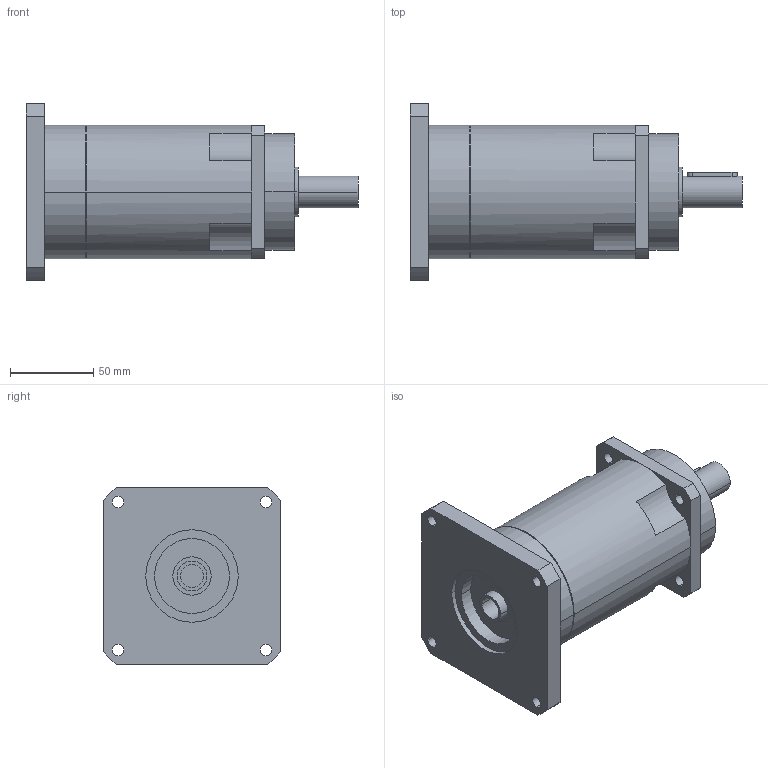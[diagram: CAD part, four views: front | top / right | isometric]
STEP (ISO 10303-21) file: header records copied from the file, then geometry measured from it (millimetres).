
FILE_DESCRIPTION(('CoCreate Modeling STEP Export'),'2;1');
FILE_NAME('GPR100_ig-48-64-80-100-120-144-180-216_19_B5_14_P02.stp','2014-08-26T11:54:58',(''),(''),'CoCreate Modeling STEP processor for AP214 (Solid Model)','CoCreate Modeling 16.00C 25-Feb-2009 (C) Parametric Technology GmbH','');
FILE_SCHEMA(('AUTOMOTIVE_DESIGN { 1 0 10303 214 1 1 1 1 }'));
Length unit declared in the file: millimetre
Products named in the file (2): GPR100_ig-48-64-80-100-120-144-180-216_19_B5_14_P02
Assembly tree (1 placements, depth 2):
  GPR100_ig-48-64-80-100-120-144-180-216_19_B5_14_P02
    GPR100_ig-48-64-80-100-120-144-180-216_19_B5_14_P02
Bounding box: 199.4 x 106.5 x 106.5 mm (x, y, z)
Volume: 846346.1 mm3; surface area: 75230.1 mm2
Topology: 1 solids, 1 shells, 89 faces, 247 edges, 169 vertices
Faces by surface type: cylinder 52, plane 31, cone 6
Entity records: 2612 total; most frequent: ORIENTED_EDGE 490, CARTESIAN_POINT 474, DIRECTION 386, EDGE_CURVE 245, VERTEX_POINT 169, AXIS2_PLACEMENT_3D 145, EDGE_LOOP 116, VECTOR 96
